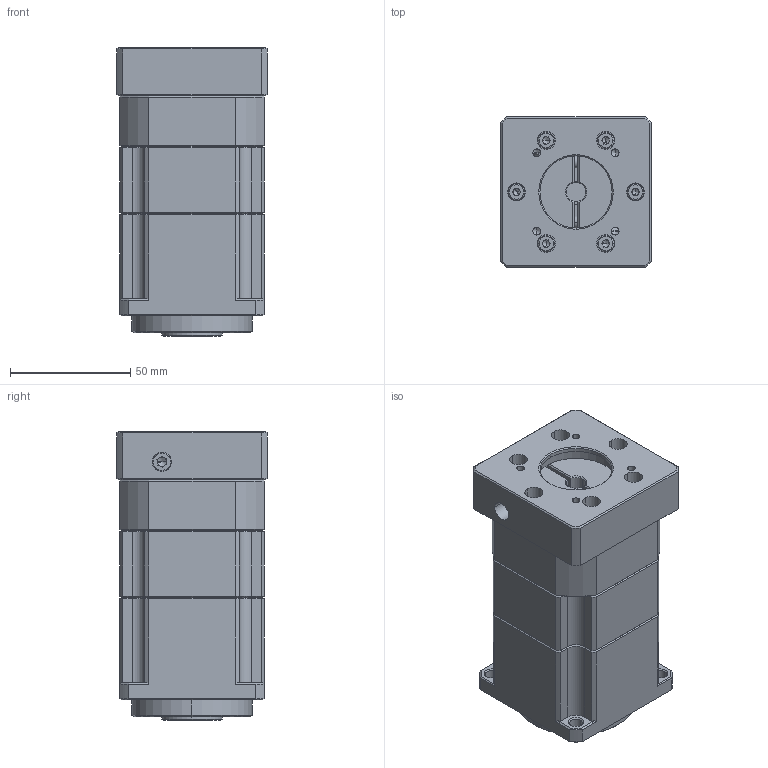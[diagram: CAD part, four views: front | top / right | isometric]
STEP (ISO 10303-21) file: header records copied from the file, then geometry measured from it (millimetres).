
FILE_DESCRIPTION (( 'STEP AP214' ), '1' );
FILE_NAME ('ZPB060-K16-L2-P1-8-30-46-M4.step', '2024-04-24T07:36:54', ( '' ), ( '' ), 'SwSTEP 2.0', 'SolidWorks 2016', '' );
FILE_SCHEMA (( 'AUTOMOTIVE_DESIGN' ));
Length unit declared in the file: millimetre
Products named in the file (1): ZPB060-K16-L2-P1-8-30-46-M4
Bounding box: 62.5 x 62.5 x 120 mm (x, y, z)
Volume: 349447.5 mm3; surface area: 78923.2 mm2
Topology: 16 solids, 17 shells, 2025 faces, 5664 edges, 3656 vertices
Faces by surface type: plane 1077, bspline 366, cylinder 263, cone 177, torus 96, sphere 46
Entity records: 102948 total; most frequent: CARTESIAN_POINT 31770, ORIENTED_EDGE 11024, DIRECTION 8619, EDGE_CURVE 5512, VERTEX_POINT 3587, LINE 3329, VECTOR 3329, AXIS2_PLACEMENT_3D 2645
